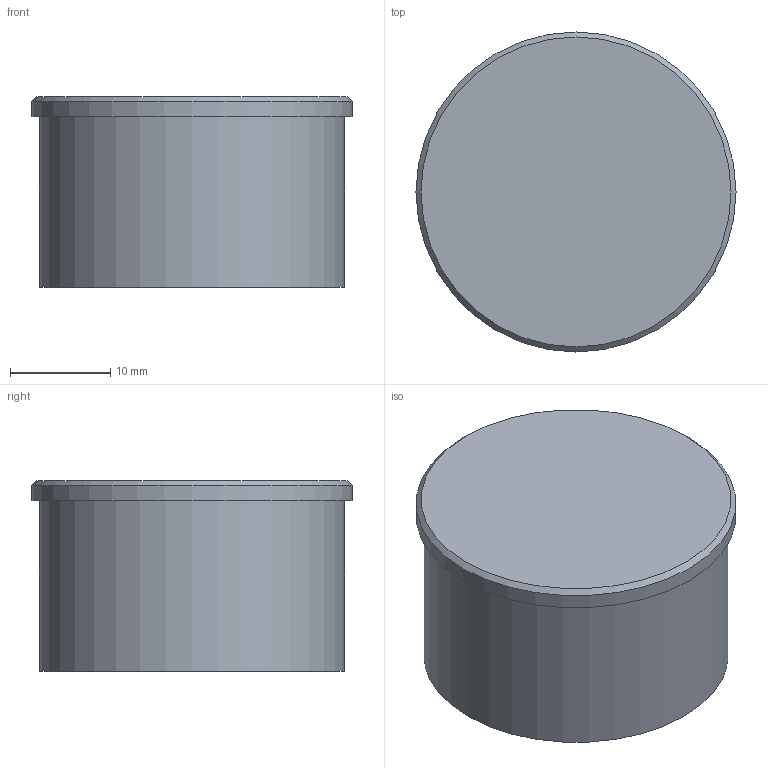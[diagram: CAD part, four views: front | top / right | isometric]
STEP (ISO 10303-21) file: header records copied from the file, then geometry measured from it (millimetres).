
FILE_DESCRIPTION (( 'STEP AP214' ), '1' );
FILE_NAME ('ﾂﾇﾊﾂ4ﾀ.STEP', '2021-05-19T08:11:32', ( '' ), ( '' ), 'SwSTEP 2.0', 'SolidWorks 2018', '' );
FILE_SCHEMA (( 'AUTOMOTIVE_DESIGN' ));
Length unit declared in the file: millimetre
Products named in the file (1): ﾂﾇﾊﾂ4ﾀ
Bounding box: 32 x 32 x 19 mm (x, y, z)
Volume: 6866.7 mm3; surface area: 4530.3 mm2
Topology: 1 solids, 1 shells, 8 faces, 11 edges, 7 vertices
Faces by surface type: plane 4, cylinder 3, cone 1
Full cylindrical faces by diameter (mm): 25.5 x1, 30.5 x1, 32 x1
Entity records: 188 total; most frequent: DIRECTION 32, CARTESIAN_POINT 23, AXIS2_PLACEMENT_3D 16, ORIENTED_EDGE 14, EDGE_LOOP 14, FACE_OUTER_BOUND 11, ADVANCED_FACE 8, EDGE_CURVE 7
